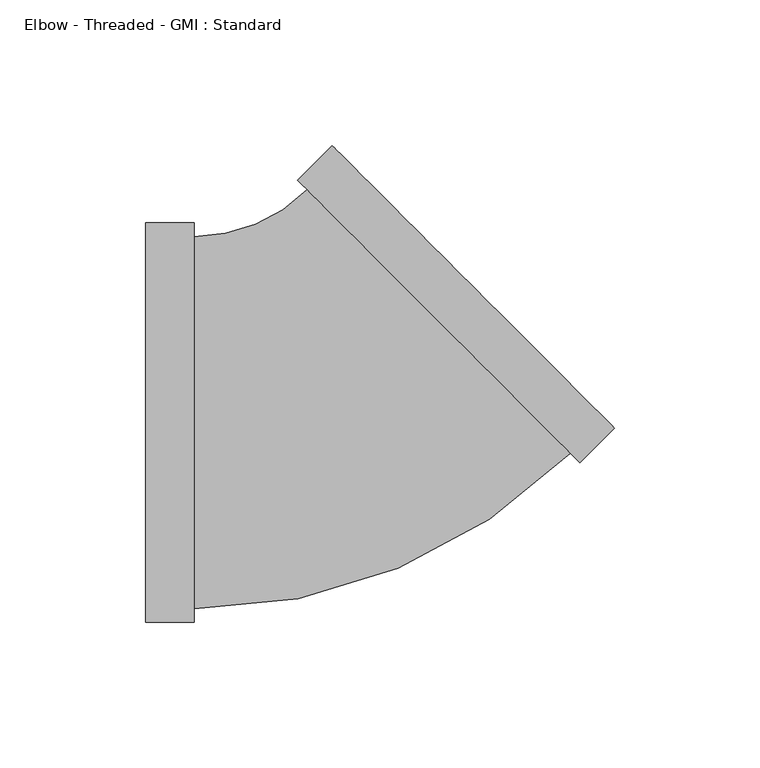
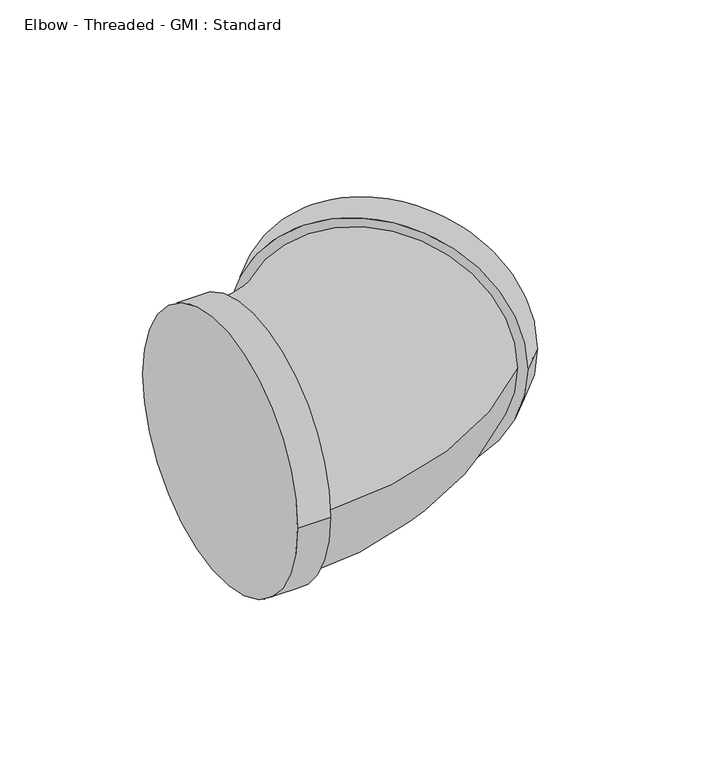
"""IFC4 building model written with IfcOpenShell, lengths in millimetres: pipe fitting geometry, Elbow - Threaded - GMI : Standard."""

from ifc_helpers import new_model, si_unit, point, frame, origin, place, context, project, spatial, circle_curve, ellipse_curve, trimmed, source, transform, mapped, element, save
from ifc_brep_helpers import plane_surface, cylinder_surface, revolved_surface, advanced_brep


def elbow_threaded_gmi_standard_39a1015b(model_context):
    return source(origin(), model_context, "Body", "AdvancedBrep", [
        advanced_brep(
        [(-66.0, -68.6, 0.0), (-66.0, 68.6, 0.0), (-49.2, -68.6, 0.0), (-49.2, 68.6, 0.0), (-49.2, -63.93, 0.0), (-49.2, 63.93, 0.0), (83.2971788, -13.7178716, 0.0), (-13.7178716, 83.2971788, 0.0), (-10.4156829, 79.9949902, 0.0), (79.9949902, -10.4156829, 0.0), (95.1765727, -1.8384776, 0.0), (-1.8384776, 95.1765727, 0.0)],
        [
            (0, 1, circle_curve(frame((-66.0, 0.0, 0.0), z_axis=(-1.0, 0.0, 0.0), x_axis=(0.0, 1.0, 0.0)), 68.6)),
            (1, 0, circle_curve(frame((-66.0, 0.0, 0.0), z_axis=(-1.0, 0.0, 0.0), x_axis=(0.0, 1.0, 0.0)), 68.6)),
            (2, 3, circle_curve(frame((-49.2, 0.0, 0.0), z_axis=(1.0, 0.0, 0.0), x_axis=(0.0, 1.0, 0.0)), 68.6)),
            (3, 2, circle_curve(frame((-49.2, 0.0, 0.0), z_axis=(1.0, 0.0, 0.0), x_axis=(0.0, 1.0, 0.0)), 68.6)),
            (4, 5, circle_curve(frame((-49.2, 0.0, 0.0), z_axis=(-1.0, 0.0, 0.0), x_axis=(0.0, 1.0, 0.0)), 63.93)),
            (5, 4, circle_curve(frame((-49.2, 0.0, 0.0), z_axis=(-1.0, 0.0, 0.0), x_axis=(0.0, 1.0, 0.0)), 63.93)),
            (0, 2),
            (3, 1),
            (6, 7, circle_curve(frame((34.7896536, 34.7896536, 0.0), z_axis=(-0.7071067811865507, -0.7071067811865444, 0.0), x_axis=(-0.7071067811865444, 0.7071067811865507, 0.0)), 68.6)),
            (7, 6, circle_curve(frame((34.7896536, 34.7896536, 0.0), z_axis=(-0.7071067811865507, -0.7071067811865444, 0.0), x_axis=(-0.7071067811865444, 0.7071067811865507, 0.0)), 68.6)),
            (8, 9, circle_curve(frame((34.7896536, 34.7896536, 0.0), z_axis=(0.7071067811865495, 0.7071067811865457, 0.0), x_axis=(-0.7071067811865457, 0.7071067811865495, 0.0)), 63.93)),
            (9, 8, circle_curve(frame((34.7896536, 34.7896536, 0.0), z_axis=(0.7071067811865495, 0.7071067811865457, 0.0), x_axis=(-0.7071067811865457, 0.7071067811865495, 0.0)), 63.93)),
            (10, 11, circle_curve(frame((46.6690476, 46.6690476, 0.0), z_axis=(0.7071067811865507, 0.7071067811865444, 0.0), x_axis=(-0.7071067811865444, 0.7071067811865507, 0.0)), 68.6)),
            (11, 10, circle_curve(frame((46.6690476, 46.6690476, 0.0), z_axis=(0.7071067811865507, 0.7071067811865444, 0.0), x_axis=(-0.7071067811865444, 0.7071067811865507, 0.0)), 68.6)),
            (6, 10),
            (11, 7),
            (8, 5, circle_curve(frame((-49.2, 118.7793073, 0.0), z_axis=(0.0, 0.0, -1.0), x_axis=(0.0, -1.0, 0.0)), 54.8493073)),
            (4, 9, circle_curve(frame((-49.2, 118.7793073, 0.0), z_axis=(0.0, 0.0, 1.0), x_axis=(0.0, -1.0, 0.0)), 182.7093073)),
        ],
        [
            plane_surface(frame((-66.0, 0.0, 0.0), z_axis=(-1.0, 0.0, 0.0), x_axis=(0.0, 0.0, 1.0))),
            plane_surface(frame((-49.2, 0.0, 0.0), z_axis=(1.0, 0.0, 0.0), x_axis=(0.0, 0.0, 1.0))),
            cylinder_surface(frame((-66.0, 0.0, 0.0), z_axis=(-1.0, 0.0, 0.0), x_axis=(0.0, 1.0, 0.0)), 68.6),
            plane_surface(frame((34.7896536, 34.7896536, 0.0), z_axis=(-0.7071067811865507, -0.7071067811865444, 0.0), x_axis=(0.0, 0.0, 1.0))),
            plane_surface(frame((46.6690476, 46.6690476, 0.0), z_axis=(0.7071067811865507, 0.7071067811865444, 0.0), x_axis=(0.0, 0.0, 1.0))),
            cylinder_surface(frame((34.7896536, 34.7896536, 0.0), z_axis=(-0.7071067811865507, -0.7071067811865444, 0.0), x_axis=(-0.7071067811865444, 0.7071067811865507, 0.0)), 68.6),
            revolved_surface(trimmed(ellipse_curve(frame((-49.2, 0.0, 0.0), z_axis=(-1.0, 0.0, 0.0), x_axis=(0.0, 1.0, 0.0)), 63.93, 63.93), [point((-49.2, -63.93, 0.0))], [point((-49.2, 63.93, 0.0))], True, "CARTESIAN"), (-49.2, 118.7793073, 0.0), (0.0, 0.0, 1.0)),
            revolved_surface(trimmed(ellipse_curve(frame((-49.2, 0.0, 0.0), z_axis=(-1.0, 0.0, 0.0), x_axis=(0.0, 1.0, 0.0)), 63.93, 63.93), [point((-49.2, 63.93, 0.0))], [point((-49.2, -63.93, 0.0))], True, "CARTESIAN"), (-49.2, 118.7793073, 0.0), (0.0, 0.0, 1.0)),
        ],
        [
            (0, [[1, 2]]),
            (1, [[3, 4], [5, 6]]),
            (2, [[-1, 7, -4, 8]]),
            (2, [[-2, -8, -3, -7]]),
            (3, [[9, 10], [11, 12]]),
            (4, [[13, 14]]),
            (5, [[-9, 15, -14, 16]]),
            (5, [[-10, -16, -13, -15]]),
            (6, [[17, -5, 18, -11]]),
            (7, [[-17, -12, -18, -6]]),
        ],
    ),
    ])


if __name__ == "__main__":
    model = new_model("IFC4")
    model_context = context("Model", 3, world=origin())
    ifc_project = project(units=[si_unit("LENGTHUNIT", "METRE", prefix="MILLI")], contexts=[model_context])
    site = spatial("IfcSite", under=ifc_project)
    building = spatial("IfcBuilding", under=site)
    placement = place(None, origin())
    elbow_threaded_gmi_standard_shape = elbow_threaded_gmi_standard_39a1015b(model_context)
    element("IfcPipeFitting", 1, ObjectType="Elbow - Threaded - GMI : Standard", at=placement, inside=building, context=model_context, shape_type="MappedRepresentation", body=[
        mapped(elbow_threaded_gmi_standard_shape, transform((0.0, 0.0, 0.0), x_axis=(1.0, 0.0, 0.0), y_axis=(0.0, 1.0, 0.0), z_axis=(0.0, 0.0, 1.0))),
    ])
    save(model, "model.ifc")
